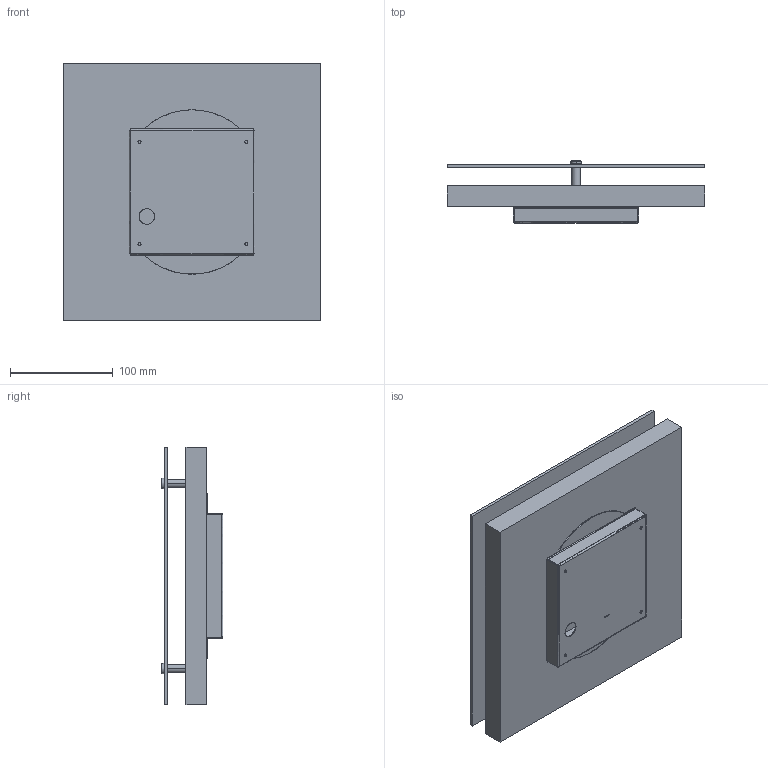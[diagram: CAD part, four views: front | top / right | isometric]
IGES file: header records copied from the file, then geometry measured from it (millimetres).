
Start section: SolidWorks IGES file using analytic representation for surfaces
Global section: file name: E:\3D lampy\Kyoto\Kyoto_3765\Kyoto_3765.IGS; native system: SolidWorks 2016; preprocessor: SolidWorks 2016; author: Asia; date: 170609.114048; units: millimetre
Bounding box: 250 x 60.3 x 250 mm (x, y, z)
Surface area: 311453.8 mm2 (no closed solid volume)
Topology: 0 solids, 0 shells, 394 faces, 6428 edges, 6424 vertices
Faces by surface type: revolution 271, bspline 123
